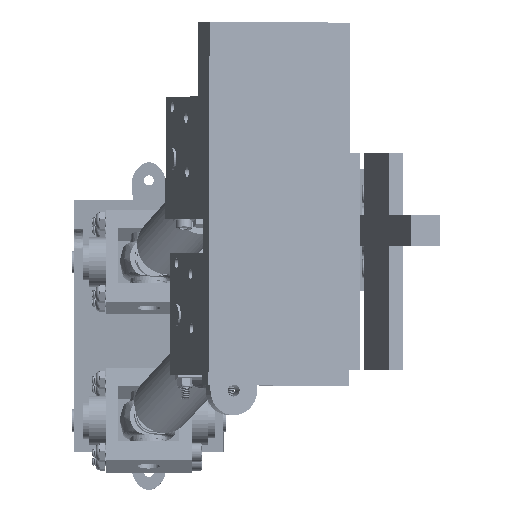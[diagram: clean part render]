
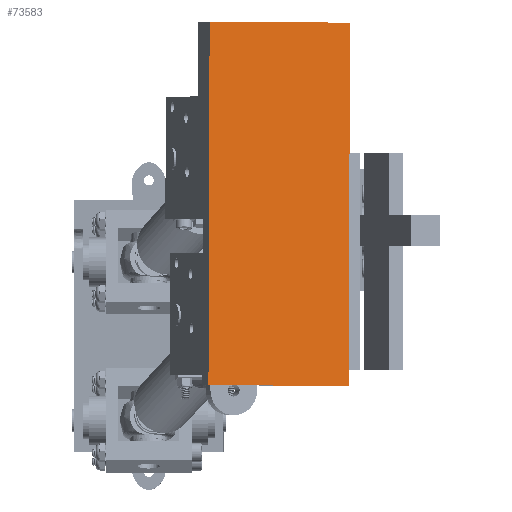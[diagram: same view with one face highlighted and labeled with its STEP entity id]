
A CAD part, top view. The second image highlights one B-rep face of the part: STEP entity #73583.
In plain terms, the highlighted planar face has unit normal (0.342, 0, 0.94) as drawn and (0, 0, -1) by its records, which use the part's own axes.
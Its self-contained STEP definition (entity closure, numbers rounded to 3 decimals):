
#8747=PLANE('',#79732);
#9731=FACE_OUTER_BOUND('',#14328,.T.);
#14328=EDGE_LOOP('',(#48082,#48083,#48084,#48085));
#19371=LINE('',#103815,#22988);
#19372=LINE('',#103817,#22989);
#19373=LINE('',#103819,#22990);
#19374=LINE('',#103820,#22991);
#22988=VECTOR('',#86519,10.);
#22989=VECTOR('',#86520,10.);
#22990=VECTOR('',#86521,10.);
#22991=VECTOR('',#86522,10.);
#28789=VERTEX_POINT('',#103813);
#28790=VERTEX_POINT('',#103814);
#28791=VERTEX_POINT('',#103816);
#28792=VERTEX_POINT('',#103818);
#36317=EDGE_CURVE('',#28789,#28790,#19371,.T.);
#36318=EDGE_CURVE('',#28789,#28791,#19372,.T.);
#36319=EDGE_CURVE('',#28792,#28791,#19373,.T.);
#36320=EDGE_CURVE('',#28790,#28792,#19374,.T.);
#48082=ORIENTED_EDGE('',*,*,#36317,.F.);
#48083=ORIENTED_EDGE('',*,*,#36318,.T.);
#48084=ORIENTED_EDGE('',*,*,#36319,.F.);
#48085=ORIENTED_EDGE('',*,*,#36320,.F.);
#73583=ADVANCED_FACE('',(#9731),#8747,.F.);
#79732=AXIS2_PLACEMENT_3D('',#103812,#86517,#86518);
#86517=DIRECTION('center_axis',(0.,0.,
1.));
#86518=DIRECTION('ref_axis',(1.,0.,0.));
#86519=DIRECTION('',(-0.004,1.,0.));
#86520=DIRECTION('',(-1.,-0.004,0.));
#86521=DIRECTION('',(0.004,-1.,0.));
#86522=DIRECTION('',(-1.,-0.004,0.));
#103812=CARTESIAN_POINT('Origin',(-648.421,455.024,223.608));
#103813=CARTESIAN_POINT('',(-636.229,413.034,223.608));
#103814=CARTESIAN_POINT('',(-636.441,471.613,223.608));
#103815=CARTESIAN_POINT('',(-636.417,464.912,223.608));
#103816=CARTESIAN_POINT('',(-660.309,412.947,223.608));
#103817=CARTESIAN_POINT('',(-654.289,412.969,223.608));
#103818=CARTESIAN_POINT('',(-660.521,471.525,223.608));
#103819=CARTESIAN_POINT('',(-660.496,464.825,223.608));
#103820=CARTESIAN_POINT('',(-648.481,471.569,223.608));
